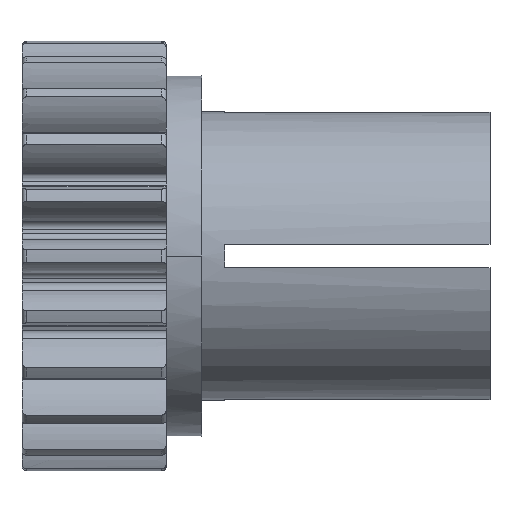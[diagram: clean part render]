
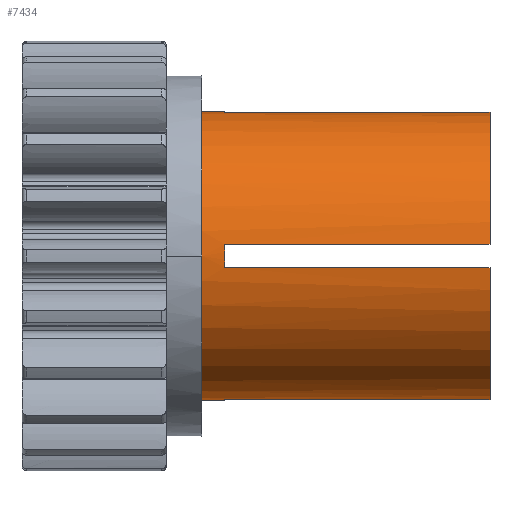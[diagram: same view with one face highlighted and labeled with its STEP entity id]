
A CAD part, front view. The second image highlights one B-rep face of the part: STEP entity #7434.
In plain terms, the highlighted cylindrical face has radius 3.175 mm (diameter 6.35 mm), a partial arc.
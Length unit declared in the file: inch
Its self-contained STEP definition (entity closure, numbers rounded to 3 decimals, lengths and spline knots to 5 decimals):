
#3106=CARTESIAN_POINT('',(0.0935,0.,0.));
#3107=DIRECTION('',(-1.,0.,0.));
#3108=DIRECTION('',(0.,0.,-1.));
#3109=AXIS2_PLACEMENT_3D('',#3106,#3107,#3108);
#3116=CARTESIAN_POINT('',(0.1135,0.,0.));
#3117=DIRECTION('',(1.,0.,0.));
#3118=DIRECTION('',(0.,-0.997,0.08));
#3119=AXIS2_PLACEMENT_3D('',#3116,#3117,#3118);
#3121=DIRECTION('',(-1.,0.,0.));
#3122=VECTOR('',#3121,0.02);
#3123=CARTESIAN_POINT('',(0.1135,0.,-0.125));
#3124=LINE('',#3123,#3122);
#3157=CARTESIAN_POINT('',(0.1135,0.,0.));
#3158=DIRECTION('',(1.,0.,0.));
#3159=DIRECTION('',(0.,-0.08,-0.997));
#3160=AXIS2_PLACEMENT_3D('',#3157,#3158,#3159);
#3193=CARTESIAN_POINT('',(0.1135,0.,0.));
#3194=DIRECTION('',(1.,0.,0.));
#3195=DIRECTION('',(0.,0.,1.));
#3196=AXIS2_PLACEMENT_3D('',#3193,#3194,#3195);
#3239=DIRECTION('',(1.,0.,0.));
#3240=VECTOR('',#3239,0.23);
#3241=CARTESIAN_POINT('',(0.1135,-0.1246,-0.01));
#3242=LINE('',#3241,#3240);
#3278=CARTESIAN_POINT('',(0.3435,0.,0.));
#3279=DIRECTION('',(1.,0.,0.));
#3280=DIRECTION('',(0.,-0.08,0.997));
#3281=AXIS2_PLACEMENT_3D('',#3278,#3279,#3280);
#3296=CARTESIAN_POINT('',(0.3435,0.,0.));
#3297=DIRECTION('',(1.,0.,0.));
#3298=DIRECTION('',(0.,-0.997,-0.08));
#3299=AXIS2_PLACEMENT_3D('',#3296,#3297,#3298);
#3363=DIRECTION('',(1.,0.,0.));
#3364=VECTOR('',#3363,0.23);
#3365=CARTESIAN_POINT('',(0.1135,-0.1246,0.01));
#3366=LINE('',#3365,#3364);
#3374=DIRECTION('',(1.,0.,0.));
#3375=VECTOR('',#3374,0.23);
#3376=CARTESIAN_POINT('',(0.1135,-0.01,0.1246));
#3377=LINE('',#3376,#3375);
#3402=DIRECTION('',(-1.,0.,0.));
#3403=VECTOR('',#3402,0.02);
#3404=CARTESIAN_POINT('',(0.1135,0.,0.125));
#3405=LINE('',#3404,#3403);
#3450=DIRECTION('',(1.,0.,0.));
#3451=VECTOR('',#3450,0.23);
#3452=CARTESIAN_POINT('',(0.1135,-0.01,-0.1246));
#3453=LINE('',#3452,#3451);
#5231=CARTESIAN_POINT('',(0.0935,0.,-0.125));
#5232=CARTESIAN_POINT('',(0.0935,0.,0.125));
#5233=VERTEX_POINT('',#5231);
#5234=VERTEX_POINT('',#5232);
#5279=CARTESIAN_POINT('',(0.3435,-0.01,0.1246));
#5280=VERTEX_POINT('',#5279);
#5281=CARTESIAN_POINT('',(0.3435,-0.1246,0.01));
#5282=VERTEX_POINT('',#5281);
#5283=CARTESIAN_POINT('',(0.3435,-0.1246,-0.01));
#5284=VERTEX_POINT('',#5283);
#5285=CARTESIAN_POINT('',(0.3435,-0.01,-0.1246));
#5286=VERTEX_POINT('',#5285);
#5291=CARTESIAN_POINT('',(0.1135,0.,0.125));
#5292=CARTESIAN_POINT('',(0.1135,-0.01,0.1246));
#5293=VERTEX_POINT('',#5291);
#5294=VERTEX_POINT('',#5292);
#5295=CARTESIAN_POINT('',(0.1135,-0.1246,0.01));
#5296=CARTESIAN_POINT('',(0.1135,-0.1246,-0.01));
#5297=VERTEX_POINT('',#5295);
#5298=VERTEX_POINT('',#5296);
#5299=CARTESIAN_POINT('',(0.1135,-0.01,-0.1246));
#5300=CARTESIAN_POINT('',(0.1135,0.,-0.125));
#5301=VERTEX_POINT('',#5299);
#5302=VERTEX_POINT('',#5300);
#7404=CARTESIAN_POINT('',(0.3435,0.,0.));
#7405=DIRECTION('',(1.,0.,0.));
#7406=DIRECTION('',(0.,0.,-1.));
#7407=AXIS2_PLACEMENT_3D('',#7404,#7405,#7406);
#7408=CYLINDRICAL_SURFACE('',#7407,0.125);
#7410=ORIENTED_EDGE('',*,*,#7409,.T.);
#7412=ORIENTED_EDGE('',*,*,#7411,.T.);
#7414=ORIENTED_EDGE('',*,*,#7413,.T.);
#7416=ORIENTED_EDGE('',*,*,#7415,.F.);
#7418=ORIENTED_EDGE('',*,*,#7417,.T.);
#7420=ORIENTED_EDGE('',*,*,#7419,.T.);
#7422=ORIENTED_EDGE('',*,*,#7421,.T.);
#7424=ORIENTED_EDGE('',*,*,#7423,.F.);
#7426=ORIENTED_EDGE('',*,*,#7425,.T.);
#7428=ORIENTED_EDGE('',*,*,#7427,.T.);
#7429=ORIENTED_EDGE('',*,*,#7397,.T.);
#7431=ORIENTED_EDGE('',*,*,#7430,.F.);
#7432=EDGE_LOOP('',(#7410,#7412,#7414,#7416,#7418,#7420,#7422,#7424,#7426,#7428,
#7429,#7431));
#7433=FACE_OUTER_BOUND('',#7432,.F.);
#7434=ADVANCED_FACE('',(#7433),#7408,.T.);
#3110=CIRCLE('',#3109,0.125);
#3120=CIRCLE('',#3119,0.125);
#3161=CIRCLE('',#3160,0.125);
#3197=CIRCLE('',#3196,0.125);
#3282=CIRCLE('',#3281,0.125);
#3300=CIRCLE('',#3299,0.125);
#7397=EDGE_CURVE('',#5233,#5234,#3110,.T.);
#7409=EDGE_CURVE('',#5293,#5294,#3197,.T.);
#7411=EDGE_CURVE('',#5294,#5280,#3377,.T.);
#7413=EDGE_CURVE('',#5280,#5282,#3282,.T.);
#7415=EDGE_CURVE('',#5297,#5282,#3366,.T.);
#7417=EDGE_CURVE('',#5297,#5298,#3120,.T.);
#7419=EDGE_CURVE('',#5298,#5284,#3242,.T.);
#7421=EDGE_CURVE('',#5284,#5286,#3300,.T.);
#7423=EDGE_CURVE('',#5301,#5286,#3453,.T.);
#7425=EDGE_CURVE('',#5301,#5302,#3161,.T.);
#7427=EDGE_CURVE('',#5302,#5233,#3124,.T.);
#7430=EDGE_CURVE('',#5293,#5234,#3405,.T.);
